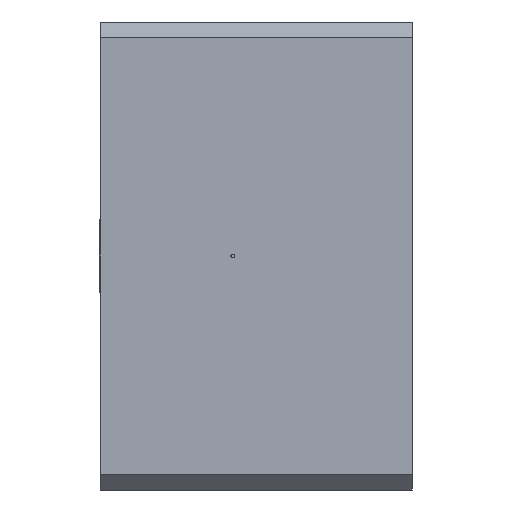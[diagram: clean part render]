
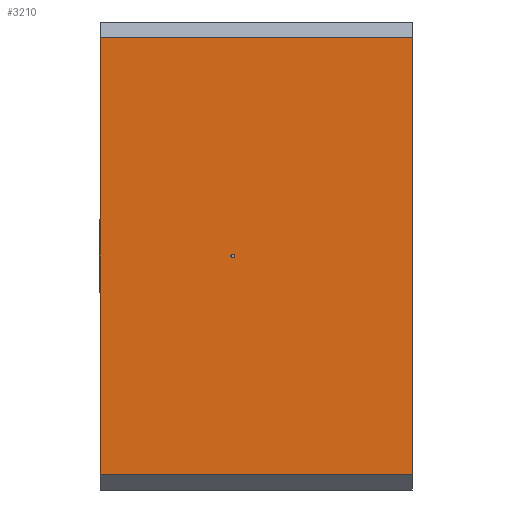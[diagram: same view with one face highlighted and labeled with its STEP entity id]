
A CAD part, left-side view. The second image highlights one B-rep face of the part: STEP entity #3210.
In plain terms, the highlighted planar face has unit normal (-1, 0, 0).
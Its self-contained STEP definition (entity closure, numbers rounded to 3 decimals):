
#13 = CARTESIAN_POINT ( 'NONE',  ( -45., 20., 58. ) ) ;
#605 = FACE_OUTER_BOUND ( 'NONE', #4372, .T. ) ;
#1374 = CARTESIAN_POINT ( 'NONE',  ( -45., 20., 60. ) ) ;
#1476 = EDGE_LOOP ( 'NONE', ( #7478, #9153 ) ) ;
#1523 = CARTESIAN_POINT ( 'NONE',  ( -45., 20., 2. ) ) ;
#2197 = VECTOR ( 'NONE', #3616, 1000. ) ;
#2459 = CARTESIAN_POINT ( 'NONE',  ( -45., -20., 2. ) ) ;
#2823 = LINE ( 'NONE', #13, #5844 ) ;
#2977 = CARTESIAN_POINT ( 'NONE',  ( -45., 3., 29.75 ) ) ;
#3210 = ADVANCED_FACE ( 'NONE', ( #605, #6292 ), #3456, .F. ) ;
#3320 = EDGE_CURVE ( 'NONE', #13454, #11402, #11597, .T. ) ;
#3377 = VECTOR ( 'NONE', #6564, 1000. ) ;
#3438 = EDGE_CURVE ( 'NONE', #5288, #4915, #10892, .T. ) ;
#3456 = PLANE ( 'NONE',  #3878 ) ;
#3480 = VERTEX_POINT ( 'NONE', #2459 ) ;
#3616 = DIRECTION ( 'NONE',  ( 0., 0., -1. ) ) ;
#3627 = EDGE_CURVE ( 'NONE', #11402, #13454, #4177, .T. ) ;
#3668 = DIRECTION ( 'NONE',  ( 1., 0., 0. ) ) ;
#3878 = AXIS2_PLACEMENT_3D ( 'NONE', #1374, #3668, #11560 ) ;
#4177 = CIRCLE ( 'NONE', #10691, 0.25 ) ;
#4229 = DIRECTION ( 'NONE',  ( 1., 0., 0. ) ) ;
#4372 = EDGE_LOOP ( 'NONE', ( #10402, #10977, #12189, #11806 ) ) ;
#4915 = VERTEX_POINT ( 'NONE', #1523 ) ;
#5052 = CARTESIAN_POINT ( 'NONE',  ( -45., 3., 30. ) ) ;
#5288 = VERTEX_POINT ( 'NONE', #12482 ) ;
#5388 = AXIS2_PLACEMENT_3D ( 'NONE', #10983, #4229, #12109 ) ;
#5522 = EDGE_CURVE ( 'NONE', #4915, #3480, #11335, .T. ) ;
#5556 = CARTESIAN_POINT ( 'NONE',  ( -45., -20., 58. ) ) ;
#5844 = VECTOR ( 'NONE', #6810, 1000. ) ;
#6177 = DIRECTION ( 'NONE',  ( 0., 0., -1. ) ) ;
#6292 = FACE_BOUND ( 'NONE', #1476, .T. ) ;
#6564 = DIRECTION ( 'NONE',  ( 0., -1., 0. ) ) ;
#6810 = DIRECTION ( 'NONE',  ( 0., 1., 0. ) ) ;
#6852 = EDGE_CURVE ( 'NONE', #8796, #5288, #2823, .T. ) ;
#7478 = ORIENTED_EDGE ( 'NONE', *, *, #3627, .T. ) ;
#7520 = VECTOR ( 'NONE', #13889, 1000. ) ;
#8498 = CARTESIAN_POINT ( 'NONE',  ( -45., 3., 30.25 ) ) ;
#8796 = VERTEX_POINT ( 'NONE', #5556 ) ;
#8929 = EDGE_CURVE ( 'NONE', #8796, #3480, #13540, .T. ) ;
#9153 = ORIENTED_EDGE ( 'NONE', *, *, #3320, .T. ) ;
#10394 = CARTESIAN_POINT ( 'NONE',  ( -45., 20., 60. ) ) ;
#10402 = ORIENTED_EDGE ( 'NONE', *, *, #8929, .F. ) ;
#10691 = AXIS2_PLACEMENT_3D ( 'NONE', #5052, #12964, #6177 ) ;
#10892 = LINE ( 'NONE', #10394, #2197 ) ;
#10977 = ORIENTED_EDGE ( 'NONE', *, *, #6852, .T. ) ;
#10983 = CARTESIAN_POINT ( 'NONE',  ( -45., 3., 30. ) ) ;
#11154 = CARTESIAN_POINT ( 'NONE',  ( -45., 20., 2. ) ) ;
#11335 = LINE ( 'NONE', #11154, #3377 ) ;
#11402 = VERTEX_POINT ( 'NONE', #8498 ) ;
#11560 = DIRECTION ( 'NONE',  ( 0., 0., -1. ) ) ;
#11597 = CIRCLE ( 'NONE', #5388, 0.25 ) ;
#11806 = ORIENTED_EDGE ( 'NONE', *, *, #5522, .T. ) ;
#12109 = DIRECTION ( 'NONE',  ( 0., 0., -1. ) ) ;
#12189 = ORIENTED_EDGE ( 'NONE', *, *, #3438, .T. ) ;
#12482 = CARTESIAN_POINT ( 'NONE',  ( -45., 20., 58. ) ) ;
#12634 = CARTESIAN_POINT ( 'NONE',  ( -45., -20., 60. ) ) ;
#12964 = DIRECTION ( 'NONE',  ( 1., 0., 0. ) ) ;
#13454 = VERTEX_POINT ( 'NONE', #2977 ) ;
#13540 = LINE ( 'NONE', #12634, #7520 ) ;
#13889 = DIRECTION ( 'NONE',  ( 0., 0., -1. ) ) ;
